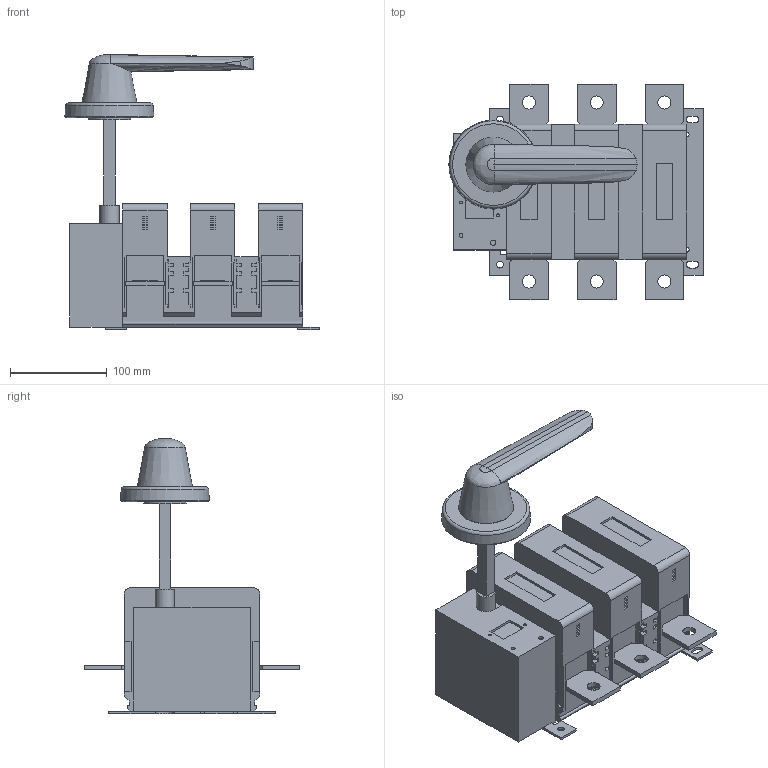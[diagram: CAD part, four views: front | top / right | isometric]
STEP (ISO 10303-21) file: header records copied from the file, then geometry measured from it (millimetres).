
FILE_DESCRIPTION (( 'STEP AP203' ), '1' );
FILE_NAME ('OptiSwitch DI-3-800-3P (m=6,2羱).STEP', '2023-02-26T16:29:21', ( '砐錪賧瘔蠈錪' ), ( '' ), 'SwSTEP 2.0', 'SolidWorks 2018', '' );
FILE_SCHEMA (( 'CONFIG_CONTROL_DESIGN' ));
Length unit declared in the file: millimetre
Products named in the file (1): OptiSwitch DI-3-800-3P (m=6,2羱)
Bounding box: 262.78 x 223 x 284.28 mm (x, y, z)
Volume: 3871277.1 mm3; surface area: 275143.9 mm2
Topology: 1 solids, 1 shells, 555 faces, 1488 edges, 982 vertices
Faces by surface type: plane 505, cylinder 33, bspline 13, cone 2, torus 2
Full cylindrical faces by diameter (mm): 3 x2, 4 x1, 5.5 x1, 7 x2, 13.5 x6, 20 x1, 44 x1
Entity records: 18373 total; most frequent: CARTESIAN_POINT 4470, ORIENTED_EDGE 2930, DIRECTION 2600, EDGE_CURVE 1465, VECTOR 1368, LINE 1368, VERTEX_POINT 979, EDGE_LOOP 646
